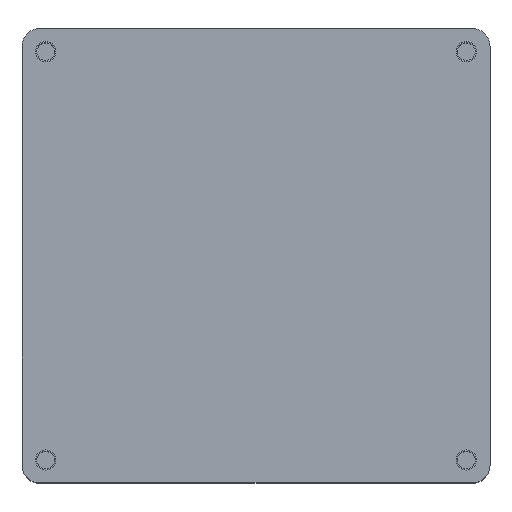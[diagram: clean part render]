
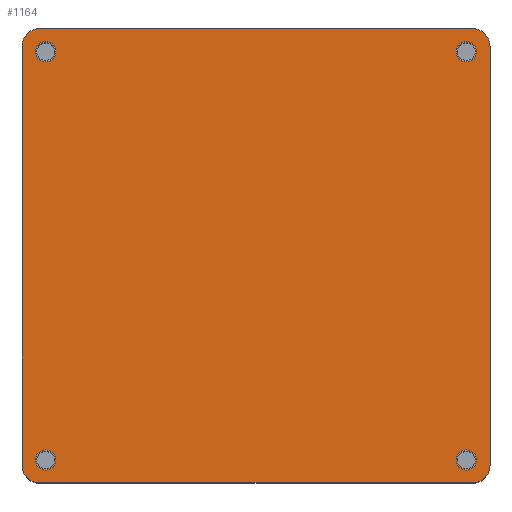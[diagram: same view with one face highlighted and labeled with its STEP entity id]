
A CAD part, top view. The second image highlights one B-rep face of the part: STEP entity #1164.
In plain terms, the highlighted planar face has unit normal (0, 0, 1).
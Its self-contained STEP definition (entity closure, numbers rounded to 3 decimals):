
#33=FACE_BOUND('',#233,.T.);
#34=FACE_BOUND('',#234,.T.);
#35=FACE_BOUND('',#235,.T.);
#36=FACE_BOUND('',#236,.T.);
#80=PLANE('',#1295);
#148=FACE_OUTER_BOUND('',#232,.T.);
#232=EDGE_LOOP('',(#1061,#1062,#1063,#1064,#1065,#1066,#1067,#1068));
#233=EDGE_LOOP('',(#1069));
#234=EDGE_LOOP('',(#1070));
#235=EDGE_LOOP('',(#1071));
#236=EDGE_LOOP('',(#1072));
#329=LINE('',#1907,#437);
#335=LINE('',#1936,#443);
#343=LINE('',#1963,#451);
#344=LINE('',#1965,#452);
#437=VECTOR('',#1570,10.);
#443=VECTOR('',#1598,10.);
#451=VECTOR('',#1632,10.);
#452=VECTOR('',#1635,10.);
#485=CIRCLE('',#1267,3.);
#494=CIRCLE('',#1279,3.);
#495=CIRCLE('',#1282,3.);
#496=CIRCLE('',#1284,3.);
#497=CIRCLE('',#1286,1.7);
#498=CIRCLE('',#1288,1.7);
#499=CIRCLE('',#1290,1.7);
#500=CIRCLE('',#1292,1.7);
#581=VERTEX_POINT('',#1894);
#582=VERTEX_POINT('',#1895);
#586=VERTEX_POINT('',#1905);
#596=VERTEX_POINT('',#1929);
#597=VERTEX_POINT('',#1930);
#598=VERTEX_POINT('',#1935);
#599=VERTEX_POINT('',#1939);
#600=VERTEX_POINT('',#1943);
#601=VERTEX_POINT('',#1947);
#602=VERTEX_POINT('',#1951);
#603=VERTEX_POINT('',#1955);
#604=VERTEX_POINT('',#1959);
#725=EDGE_CURVE('',#581,#582,#485,.T.);
#731=EDGE_CURVE('',#581,#586,#329,.T.);
#742=EDGE_CURVE('',#596,#597,#494,.T.);
#745=EDGE_CURVE('',#598,#597,#335,.T.);
#747=EDGE_CURVE('',#598,#599,#495,.T.);
#749=EDGE_CURVE('',#600,#586,#496,.T.);
#751=EDGE_CURVE('',#601,#601,#497,.T.);
#753=EDGE_CURVE('',#602,#602,#498,.T.);
#755=EDGE_CURVE('',#603,#603,#499,.T.);
#757=EDGE_CURVE('',#604,#604,#500,.T.);
#759=EDGE_CURVE('',#596,#582,#343,.T.);
#760=EDGE_CURVE('',#600,#599,#344,.T.);
#1061=ORIENTED_EDGE('',*,*,#725,.F.);
#1062=ORIENTED_EDGE('',*,*,#731,.T.);
#1063=ORIENTED_EDGE('',*,*,#749,.F.);
#1064=ORIENTED_EDGE('',*,*,#760,.T.);
#1065=ORIENTED_EDGE('',*,*,#747,.F.);
#1066=ORIENTED_EDGE('',*,*,#745,.T.);
#1067=ORIENTED_EDGE('',*,*,#742,.F.);
#1068=ORIENTED_EDGE('',*,*,#759,.T.);
#1069=ORIENTED_EDGE('',*,*,#757,.T.);
#1070=ORIENTED_EDGE('',*,*,#755,.T.);
#1071=ORIENTED_EDGE('',*,*,#753,.T.);
#1072=ORIENTED_EDGE('',*,*,#751,.T.);
#1164=ADVANCED_FACE('',(#148,#33,#34,#35,#36),#80,.T.);
#1267=AXIS2_PLACEMENT_3D('',#1896,#1560,#1561);
#1279=AXIS2_PLACEMENT_3D('',#1931,#1592,#1593);
#1282=AXIS2_PLACEMENT_3D('',#1940,#1602,#1603);
#1284=AXIS2_PLACEMENT_3D('',#1944,#1607,#1608);
#1286=AXIS2_PLACEMENT_3D('',#1948,#1612,#1613);
#1288=AXIS2_PLACEMENT_3D('',#1952,#1617,#1618);
#1290=AXIS2_PLACEMENT_3D('',#1956,#1622,#1623);
#1292=AXIS2_PLACEMENT_3D('',#1960,#1627,#1628);
#1295=AXIS2_PLACEMENT_3D('',#1966,#1636,#1637);
#1560=DIRECTION('center_axis',(0.,0.,-1.));
#1561=DIRECTION('ref_axis',(-0.707,0.707,0.));
#1570=DIRECTION('',(0.,-1.,0.));
#1592=DIRECTION('center_axis',(0.,0.,-1.));
#1593=DIRECTION('ref_axis',(0.707,0.707,0.));
#1598=DIRECTION('',(0.,1.,0.));
#1602=DIRECTION('center_axis',(0.,0.,-1.));
#1603=DIRECTION('ref_axis',(0.707,-0.707,0.));
#1607=DIRECTION('center_axis',(0.,0.,-1.));
#1608=DIRECTION('ref_axis',(-0.707,-0.707,0.));
#1612=DIRECTION('center_axis',(0.,0.,-1.));
#1613=DIRECTION('ref_axis',(-1.,0.,0.));
#1617=DIRECTION('center_axis',(0.,0.,-1.));
#1618=DIRECTION('ref_axis',(-1.,0.,0.));
#1622=DIRECTION('center_axis',(0.,0.,-1.));
#1623=DIRECTION('ref_axis',(-1.,0.,0.));
#1627=DIRECTION('center_axis',(0.,0.,-1.));
#1628=DIRECTION('ref_axis',(-1.,0.,0.));
#1632=DIRECTION('',(-1.,0.,0.));
#1635=DIRECTION('',(1.,0.,0.));
#1636=DIRECTION('center_axis',(0.,0.,1.));
#1637=DIRECTION('ref_axis',(-1.,0.,0.));
#1894=CARTESIAN_POINT('',(-39.5,35.35,37.));
#1895=CARTESIAN_POINT('',(-36.5,38.35,37.));
#1896=CARTESIAN_POINT('Origin',(-36.5,35.35,37.));
#1905=CARTESIAN_POINT('',(-39.5,-35.35,37.));
#1907=CARTESIAN_POINT('',(-39.5,38.35,37.));
#1929=CARTESIAN_POINT('',(36.5,38.35,37.));
#1930=CARTESIAN_POINT('',(39.5,35.35,37.));
#1931=CARTESIAN_POINT('Origin',(36.5,35.35,37.));
#1935=CARTESIAN_POINT('',(39.5,-35.35,37.));
#1936=CARTESIAN_POINT('',(39.5,-38.35,37.));
#1939=CARTESIAN_POINT('',(36.5,-38.35,37.));
#1940=CARTESIAN_POINT('Origin',(36.5,-35.35,37.));
#1943=CARTESIAN_POINT('',(-36.5,-38.35,37.));
#1944=CARTESIAN_POINT('Origin',(-36.5,-35.35,37.));
#1947=CARTESIAN_POINT('',(-33.8,34.466,37.));
#1948=CARTESIAN_POINT('Origin',(-35.5,34.466,37.));
#1951=CARTESIAN_POINT('',(-33.8,-34.466,37.));
#1952=CARTESIAN_POINT('Origin',(-35.5,-34.466,37.));
#1955=CARTESIAN_POINT('',(37.2,-34.466,37.));
#1956=CARTESIAN_POINT('Origin',(35.5,-34.466,37.));
#1959=CARTESIAN_POINT('',(37.2,34.466,37.));
#1960=CARTESIAN_POINT('Origin',(35.5,34.466,37.));
#1963=CARTESIAN_POINT('',(39.5,38.35,37.));
#1965=CARTESIAN_POINT('',(-39.5,-38.35,37.));
#1966=CARTESIAN_POINT('Origin',(0.,0.,37.));
